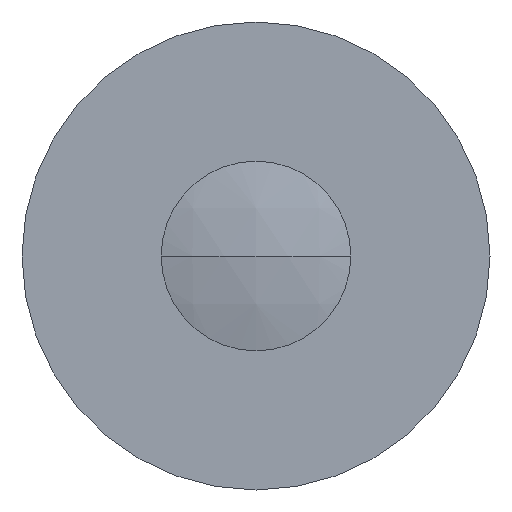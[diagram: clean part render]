
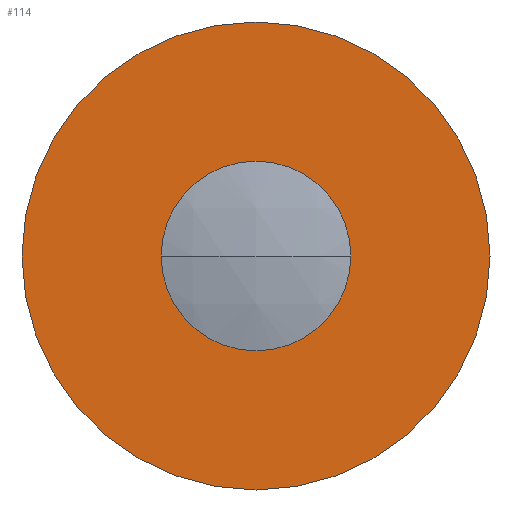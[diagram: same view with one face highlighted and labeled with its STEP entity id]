
A CAD part, front view. The second image highlights one B-rep face of the part: STEP entity #114.
In plain terms, the highlighted planar face has unit normal (0, -1, 0).
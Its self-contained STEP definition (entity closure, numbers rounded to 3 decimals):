
#114=ADVANCED_FACE('',(#202,#203),#204,.F.);
#202=FACE_OUTER_BOUND('',#293,.T.);
#203=FACE_BOUND('',#294,.T.);
#204=PLANE('',#295);
#293=EDGE_LOOP('',(#595,#596));
#294=EDGE_LOOP('',(#597,#598));
#295=AXIS2_PLACEMENT_3D('',#599,#600,#601);
#595=ORIENTED_EDGE('',*,*,#701,.T.);
#596=ORIENTED_EDGE('',*,*,#703,.T.);
#597=ORIENTED_EDGE('',*,*,#704,.F.);
#598=ORIENTED_EDGE('',*,*,#705,.F.);
#599=CARTESIAN_POINT('',(-27.5,-7.0,0.0));
#600=DIRECTION('',(-0.0,1.0,0.0));
#601=DIRECTION('',(1.0,0.0,0.0));
#701=EDGE_CURVE('',#852,#850,#853,.T.);
#703=EDGE_CURVE('',#850,#852,#855,.T.);
#704=EDGE_CURVE('',#856,#857,#858,.T.);
#705=EDGE_CURVE('',#857,#856,#859,.T.);
#850=VERTEX_POINT('',#1071);
#852=VERTEX_POINT('',#1074);
#853=CIRCLE('',#1075,29.0);
#855=CIRCLE('',#1078,29.0);
#856=VERTEX_POINT('',#1079);
#857=VERTEX_POINT('',#1080);
#858=CIRCLE('',#1081,11.75);
#859=CIRCLE('',#1082,11.75);
#1071=CARTESIAN_POINT('',(1.5,-7.0,29.0));
#1074=CARTESIAN_POINT('',(1.5,-7.0,-29.0));
#1075=AXIS2_PLACEMENT_3D('',#1213,#1214,#1215);
#1078=AXIS2_PLACEMENT_3D('',#1217,#1218,#1219);
#1079=CARTESIAN_POINT('',(-10.25,-7.0,0.0));
#1080=CARTESIAN_POINT('',(13.25,-7.0,0.));
#1081=AXIS2_PLACEMENT_3D('',#1220,#1221,#1222);
#1082=AXIS2_PLACEMENT_3D('',#1223,#1224,#1225);
#1213=CARTESIAN_POINT('',(1.5,-7.0,0.0));
#1214=DIRECTION('',(0.0,-1.0,0.0));
#1215=DIRECTION('',(0.0,0.0,-1.0));
#1217=CARTESIAN_POINT('',(1.5,-7.0,0.0));
#1218=DIRECTION('',(0.0,-1.0,0.0));
#1219=DIRECTION('',(0.0,0.0,-1.0));
#1220=CARTESIAN_POINT('',(1.5,-7.0,0.0));
#1221=DIRECTION('',(0.0,-1.0,0.0));
#1222=DIRECTION('',(0.0,0.0,-1.0));
#1223=CARTESIAN_POINT('',(1.5,-7.0,0.0));
#1224=DIRECTION('',(0.0,-1.0,0.0));
#1225=DIRECTION('',(0.0,0.0,-1.0));
